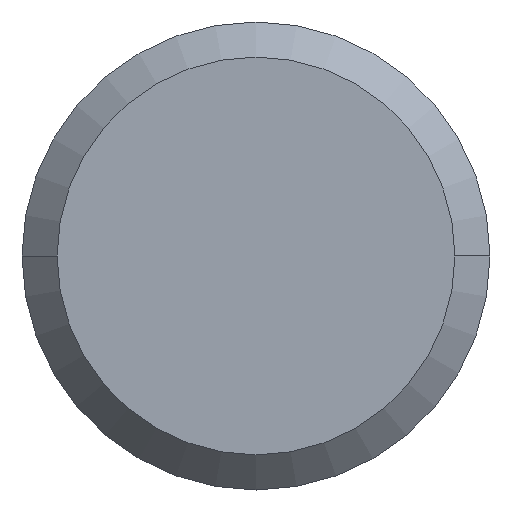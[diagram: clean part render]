
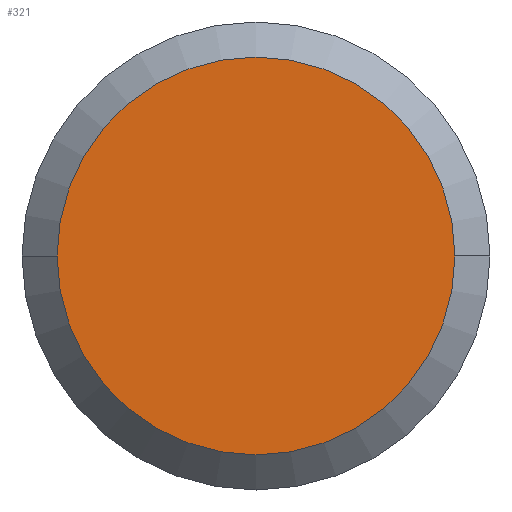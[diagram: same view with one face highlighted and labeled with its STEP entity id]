
A CAD part, left-side view. The second image highlights one B-rep face of the part: STEP entity #321.
In plain terms, the highlighted planar face has unit normal (-1, 0, 0).
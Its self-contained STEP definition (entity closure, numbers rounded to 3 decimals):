
#16 = PLANE ( 'NONE',  #269 ) ;
#31 = ORIENTED_EDGE ( 'NONE', *, *, #62, .F. ) ;
#51 = CARTESIAN_POINT ( 'NONE',  ( -30., 0.85, 0. ) ) ;
#53 = DIRECTION ( 'NONE',  ( 0., 1., 0. ) ) ;
#62 = EDGE_CURVE ( 'NONE', #239, #411, #165, .T. ) ;
#118 = AXIS2_PLACEMENT_3D ( 'NONE', #426, #197, #353 ) ;
#129 = AXIS2_PLACEMENT_3D ( 'NONE', #208, #393, #53 ) ;
#165 = CIRCLE ( 'NONE', #118, 1.7 ) ;
#173 = DIRECTION ( 'NONE',  ( -1., 0., 0. ) ) ;
#197 = DIRECTION ( 'NONE',  ( 1., 0., 0. ) ) ;
#202 = DIRECTION ( 'NONE',  ( 0., 0., 1. ) ) ;
#206 = CIRCLE ( 'NONE', #129, 1.7 ) ;
#208 = CARTESIAN_POINT ( 'NONE',  ( -30., 0., 0. ) ) ;
#232 = CARTESIAN_POINT ( 'NONE',  ( -30., -1.7, 0. ) ) ;
#234 = EDGE_LOOP ( 'NONE', ( #272, #31 ) ) ;
#239 = VERTEX_POINT ( 'NONE', #232 ) ;
#269 = AXIS2_PLACEMENT_3D ( 'NONE', #51, #173, #202 ) ;
#272 = ORIENTED_EDGE ( 'NONE', *, *, #433, .F. ) ;
#321 = ADVANCED_FACE ( 'NONE', ( #364 ), #16, .T. ) ;
#353 = DIRECTION ( 'NONE',  ( 0., 1., 0. ) ) ;
#364 = FACE_OUTER_BOUND ( 'NONE', #234, .T. ) ;
#393 = DIRECTION ( 'NONE',  ( 1., 0., 0. ) ) ;
#411 = VERTEX_POINT ( 'NONE', #479 ) ;
#426 = CARTESIAN_POINT ( 'NONE',  ( -30., 0., 0. ) ) ;
#433 = EDGE_CURVE ( 'NONE', #411, #239, #206, .T. ) ;
#479 = CARTESIAN_POINT ( 'NONE',  ( -30., 1.7, 0. ) ) ;
